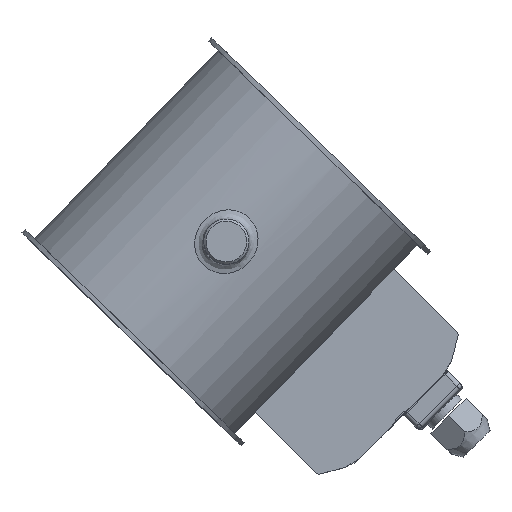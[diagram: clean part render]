
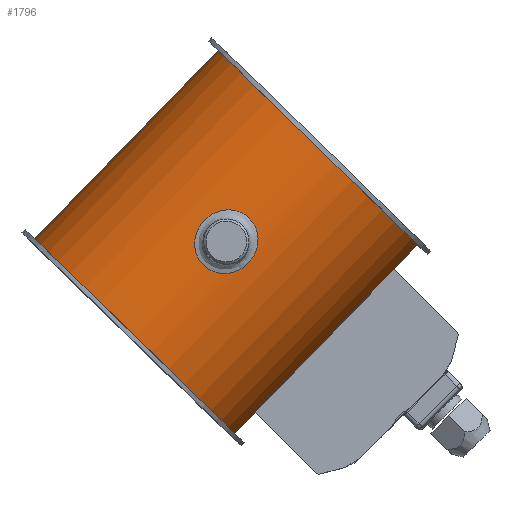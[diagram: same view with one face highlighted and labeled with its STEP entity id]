
A CAD part, top view. The second image highlights one B-rep face of the part: STEP entity #1796.
In plain terms, the highlighted cylindrical face has radius 61.5 mm (diameter 123 mm), a full revolution.
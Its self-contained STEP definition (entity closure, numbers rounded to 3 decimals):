
#1442=CARTESIAN_POINT('',(-60.0,13.5,53.462));
#1443=VERTEX_POINT('',#1442);
#1444=CARTESIAN_POINT('',(-60.0,13.5,66.538));
#1445=VERTEX_POINT('',#1444);
#1446=CARTESIAN_POINT('',(-60.0,13.5,53.462));
#1447=DIRECTION('',(0.0,0.0,1.0));
#1448=VECTOR('',#1447,13.077);
#1449=LINE('',#1446,#1448);
#1450=EDGE_CURVE('',#1443,#1445,#1449,.T.);
#1467=CARTESIAN_POINT('',(-60.0,-13.5,66.538));
#1468=VERTEX_POINT('',#1467);
#1469=CARTESIAN_POINT('',(-60.0,-13.5,53.462));
#1470=VERTEX_POINT('',#1469);
#1471=CARTESIAN_POINT('',(-60.0,-13.5,66.538));
#1472=DIRECTION('',(0.0,0.0,-1.0));
#1473=VECTOR('',#1472,13.077);
#1474=LINE('',#1471,#1473);
#1475=EDGE_CURVE('',#1468,#1470,#1474,.T.);
#1492=CARTESIAN_POINT('',(-60.0,-13.5,53.462));
#1493=CARTESIAN_POINT('',(-60.168,-12.755,51.924));
#1494=CARTESIAN_POINT('',(-60.379,-11.743,50.53));
#1495=CARTESIAN_POINT('',(-60.811,-9.279,48.066));
#1496=CARTESIAN_POINT('',(-61.057,-7.598,46.913));
#1497=CARTESIAN_POINT('',(-61.317,-4.827,45.763));
#1498=CARTESIAN_POINT('',(-61.386,-3.863,45.472));
#1499=CARTESIAN_POINT('',(-61.478,-1.923,45.091));
#1500=CARTESIAN_POINT('',(-61.5,-0.946,45.0));
#1501=CARTESIAN_POINT('',(-61.5,0.946,45.0));
#1502=CARTESIAN_POINT('',(-61.478,1.923,45.091));
#1503=CARTESIAN_POINT('',(-61.386,3.863,45.472));
#1504=CARTESIAN_POINT('',(-61.317,4.827,45.763));
#1505=CARTESIAN_POINT('',(-61.057,7.598,46.913));
#1506=CARTESIAN_POINT('',(-60.811,9.279,48.066));
#1507=CARTESIAN_POINT('',(-60.379,11.743,50.53));
#1508=CARTESIAN_POINT('',(-60.168,12.755,51.924));
#1509=CARTESIAN_POINT('',(-60.0,13.5,53.462));
#1510=B_SPLINE_CURVE_WITH_KNOTS('',3,(#1492,#1493,#1494,#1495,#1496,#1497,#1498,#1499,#1500,#1501,#1502,#1503,#1504,#1505,#1506,#1507,#1508,#1509),.UNSPECIFIED.,.F.,.U.,(4,2,2,2,2,2,2,2,4),(5.189,5.675,6.243,6.526,6.81,7.094,7.378,7.945,8.431),.UNSPECIFIED.);
#1511=EDGE_CURVE('',#1470,#1443,#1510,.T.);
#1514=CARTESIAN_POINT('',(-60.0,13.5,66.538));
#1515=CARTESIAN_POINT('',(-60.168,12.755,68.076));
#1516=CARTESIAN_POINT('',(-60.379,11.743,69.47));
#1517=CARTESIAN_POINT('',(-60.811,9.279,71.934));
#1518=CARTESIAN_POINT('',(-61.057,7.598,73.087));
#1519=CARTESIAN_POINT('',(-61.317,4.827,74.237));
#1520=CARTESIAN_POINT('',(-61.386,3.863,74.528));
#1521=CARTESIAN_POINT('',(-61.478,1.923,74.909));
#1522=CARTESIAN_POINT('',(-61.5,0.946,75.0));
#1523=CARTESIAN_POINT('',(-61.5,-0.946,75.0));
#1524=CARTESIAN_POINT('',(-61.478,-1.923,74.909));
#1525=CARTESIAN_POINT('',(-61.386,-3.863,74.528));
#1526=CARTESIAN_POINT('',(-61.317,-4.827,74.237));
#1527=CARTESIAN_POINT('',(-61.057,-7.598,73.087));
#1528=CARTESIAN_POINT('',(-60.811,-9.279,71.934));
#1529=CARTESIAN_POINT('',(-60.379,-11.743,69.47));
#1530=CARTESIAN_POINT('',(-60.168,-12.755,68.076));
#1531=CARTESIAN_POINT('',(-60.0,-13.5,66.538));
#1532=B_SPLINE_CURVE_WITH_KNOTS('',3,(#1514,#1515,#1516,#1517,#1518,#1519,#1520,#1521,#1522,#1523,#1524,#1525,#1526,#1527,#1528,#1529,#1530,#1531),.UNSPECIFIED.,.F.,.U.,(4,2,2,2,2,2,2,2,4),(0.649,1.135,1.703,1.986,2.27,2.554,2.837,3.405,3.891),.UNSPECIFIED.);
#1533=EDGE_CURVE('',#1445,#1468,#1532,.T.);
#1721=CARTESIAN_POINT('',(59.997,13.511,60.0));
#1722=VERTEX_POINT('',#1721);
#1732=CARTESIAN_POINT('',(59.997,13.512,60.));
#1733=CARTESIAN_POINT('',(59.997,13.512,60.001));
#1734=CARTESIAN_POINT('',(59.997,13.512,60.001));
#1735=CARTESIAN_POINT('',(59.997,13.512,60.002));
#1736=CARTESIAN_POINT('',(59.997,13.512,62.166));
#1737=CARTESIAN_POINT('',(60.215,12.591,66.493));
#1738=CARTESIAN_POINT('',(60.944,8.729,71.707));
#1739=CARTESIAN_POINT('',(61.423,4.082,74.123));
#1740=CARTESIAN_POINT('',(61.525,0.016,74.622));
#1741=CARTESIAN_POINT('',(61.425,-4.038,74.138));
#1742=CARTESIAN_POINT('',(60.95,-8.702,71.726));
#1743=CARTESIAN_POINT('',(60.132,-13.009,65.959));
#1744=CARTESIAN_POINT('',(59.912,-13.875,59.972));
#1745=CARTESIAN_POINT('',(60.121,-12.957,55.704));
#1746=CARTESIAN_POINT('',(60.431,-11.486,51.657));
#1747=CARTESIAN_POINT('',(61.043,-8.143,47.8));
#1748=CARTESIAN_POINT('',(61.522,-2.435,45.384));
#1749=CARTESIAN_POINT('',(61.523,3.116,45.378));
#1750=CARTESIAN_POINT('',(60.945,8.714,48.286));
#1751=CARTESIAN_POINT('',(60.218,12.58,53.47));
#1752=CARTESIAN_POINT('',(59.997,13.512,57.836));
#1753=CARTESIAN_POINT('',(59.997,13.512,60.));
#1754=B_SPLINE_CURVE_WITH_KNOTS('',3,(#1732,#1733,#1734,#1735,#1736,#1737,#1738,#1739,#1740,#1741,#1742,#1743,#1744,#1745,#1746,#1747,#1748,#1749,#1750,#1751,#1752,#1753),.UNSPECIFIED.,.T.,.U.,(4,3,1,1,1,1,1,1,1,1,1,1,1,1,1,1,1,4),(-6.039,-6.039,-5.607,-5.176,-4.745,-4.529,-4.313,-3.882,-3.451,-2.875,-2.732,-2.588,-2.013,-1.725,-1.294,-0.863,-0.431,0.),.UNSPECIFIED.);
#1755=EDGE_CURVE('',#1722,#1722,#1754,.T.);
#1760=CARTESIAN_POINT('',(0.0,0.0,0.0));
#1761=DIRECTION('',(0.0,0.0,1.0));
#1762=DIRECTION('',(-1.0,0.0,0.0));
#1763=AXIS2_PLACEMENT_3D('',#1760,#1761,#1762);
#1764=CYLINDRICAL_SURFACE('',#1763,61.5);
#1765=CARTESIAN_POINT('',(61.5,0.,118.0));
#1766=VERTEX_POINT('',#1765);
#1767=CARTESIAN_POINT('',(0.0,0.0,118.0));
#1768=DIRECTION('',(0.0,0.0,-1.0));
#1769=DIRECTION('',(-1.0,0.0,0.0));
#1770=AXIS2_PLACEMENT_3D('',#1767,#1768,#1769);
#1771=CIRCLE('',#1770,61.5);
#1772=EDGE_CURVE('',#1766,#1766,#1771,.T.);
#1773=ORIENTED_EDGE('',*,*,#1772,.T.);
#1774=EDGE_LOOP('',(#1773));
#1775=FACE_OUTER_BOUND('',#1774,.T.);
#1776=ORIENTED_EDGE('',*,*,#1533,.T.);
#1777=ORIENTED_EDGE('',*,*,#1475,.T.);
#1778=ORIENTED_EDGE('',*,*,#1511,.T.);
#1779=ORIENTED_EDGE('',*,*,#1450,.T.);
#1780=EDGE_LOOP('',(#1776,#1777,#1778,#1779));
#1781=FACE_BOUND('',#1780,.T.);
#1782=CARTESIAN_POINT('',(-61.5,0.,2.0));
#1783=VERTEX_POINT('',#1782);
#1784=CARTESIAN_POINT('',(0.0,0.0,2.0));
#1785=DIRECTION('',(0.0,0.0,1.0));
#1786=DIRECTION('',(-1.0,0.0,0.0));
#1787=AXIS2_PLACEMENT_3D('',#1784,#1785,#1786);
#1788=CIRCLE('',#1787,61.5);
#1789=EDGE_CURVE('',#1783,#1783,#1788,.T.);
#1790=ORIENTED_EDGE('',*,*,#1789,.T.);
#1791=EDGE_LOOP('',(#1790));
#1792=FACE_BOUND('',#1791,.T.);
#1793=ORIENTED_EDGE('',*,*,#1755,.F.);
#1794=EDGE_LOOP('',(#1793));
#1795=FACE_BOUND('',#1794,.T.);
#1796=ADVANCED_FACE('',(#1775,#1781,#1792,#1795),#1764,.T.);
